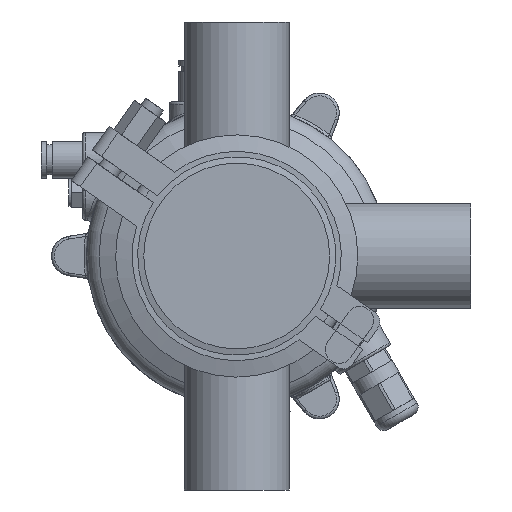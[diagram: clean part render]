
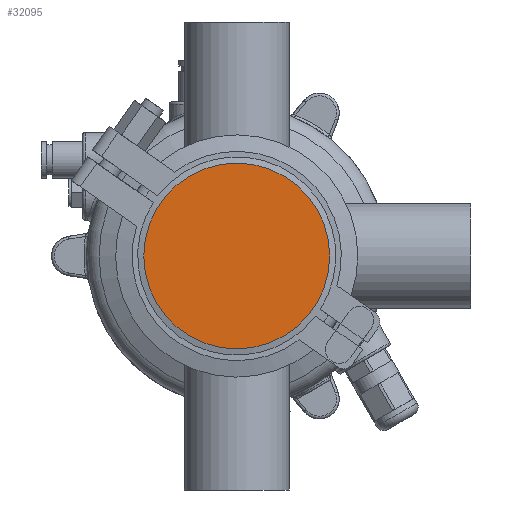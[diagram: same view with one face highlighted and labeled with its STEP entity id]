
A CAD part, front view. The second image highlights one B-rep face of the part: STEP entity #32095.
In plain terms, the highlighted planar face has unit normal (0, -1, 0).
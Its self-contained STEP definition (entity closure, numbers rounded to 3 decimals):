
#882 = DIRECTION ( 'NONE',  ( 0., 0., -1. ) ) ;
#5270 = AXIS2_PLACEMENT_3D ( 'NONE', #24033, #51110, #37426 ) ;
#5334 = CARTESIAN_POINT ( 'NONE',  ( 0., 0., 33.75 ) ) ;
#9143 = CARTESIAN_POINT ( 'NONE',  ( -33.75, 0., 0. ) ) ;
#15431 = VERTEX_POINT ( 'NONE', #5334 ) ;
#20687 = AXIS2_PLACEMENT_3D ( 'NONE', #9143, #46222, #882 ) ;
#24033 = CARTESIAN_POINT ( 'NONE',  ( 0., 0., 0. ) ) ;
#24399 = EDGE_CURVE ( 'NONE', #15431, #15431, #43164, .T. ) ;
#28591 = PLANE ( 'NONE',  #20687 ) ;
#32095 = ADVANCED_FACE ( 'NONE', ( #32577 ), #28591, .T. ) ;
#32577 = FACE_OUTER_BOUND ( 'NONE', #39781, .T. ) ;
#37426 = DIRECTION ( 'NONE',  ( 0., 0., 1. ) ) ;
#38177 = ORIENTED_EDGE ( 'NONE', *, *, #24399, .F. ) ;
#39781 = EDGE_LOOP ( 'NONE', ( #38177 ) ) ;
#43164 = CIRCLE ( 'NONE', #5270, 33.75 ) ;
#46222 = DIRECTION ( 'NONE',  ( 0., -1., 0. ) ) ;
#51110 = DIRECTION ( 'NONE',  ( 0., 1., 0. ) ) ;
